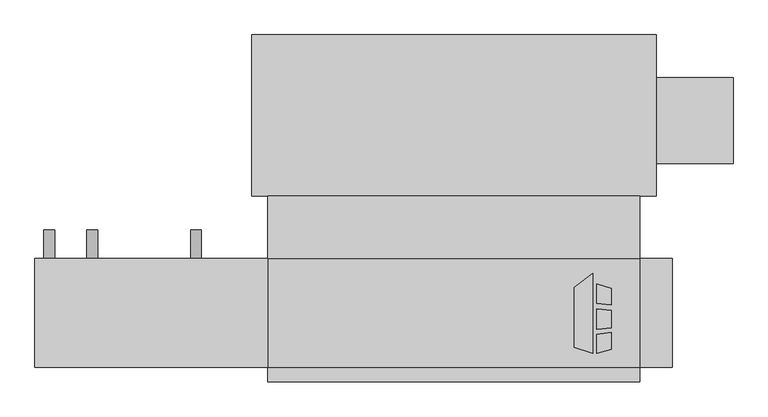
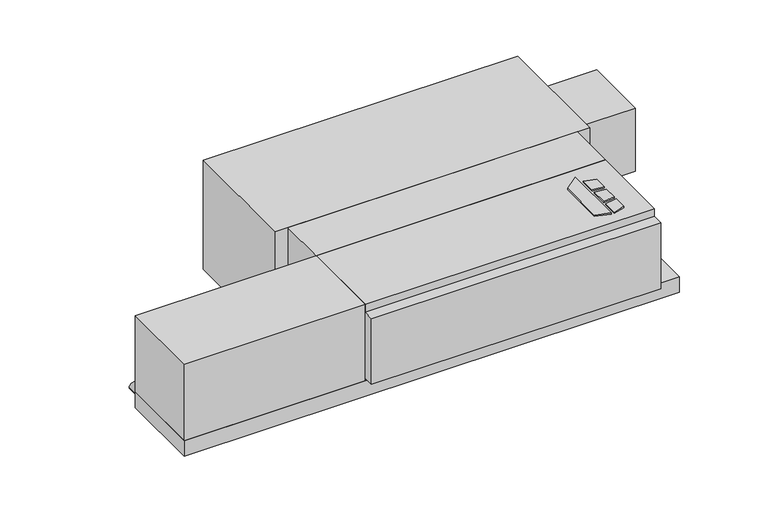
"""IFC4 building model written with IfcOpenShell, lengths in millimetres: proxy geometry, Concealed_Horizontal_Fan_Coil_Unit_With_Plenum_-_CPF_-_IEC_-_2-Pipe_LH : Size 04 - 115v/60Hz/1Ph - 4/1 Coil."""

from ifc_helpers import new_model, si_unit, point, frame, frame_2d, origin, origin_with_axes, place, context, project, spatial, polyline, circle_curve, trimmed, segment, composite_curve, outline, extrude, source, transform, mapped, element, save


def mechanical_equipment_48855735(model_context):
    return source(origin(), model_context, "Body", "SweptSolid", [
        extrude(outline(polyline([(366.4019761, -193.0453476), (398.9602728, -167.6080184), (398.9602728, -309.5625), (366.4019761, -299.3429201), (366.4019761, -193.0453476)])), origin_with_axes(), (0.0, 0.0, 1.0), 3.175),
        extrude(outline(polyline([(405.7186058, -220.917352), (405.7186058, -186.4374379), (431.8, -194.6240115), (431.8, -224.1197446), (405.7186058, -220.917352)])), origin_with_axes(), (0.0, 0.0, 1.0), 3.175),
        extrude(outline(polyline([(431.8, -302.5740115), (405.7186058, -309.5625), (405.7186058, -276.3411996), (431.8, -272.7993564), (431.8, -302.5740115)])), origin_with_axes(), (0.0, 0.0, 1.0), 3.175),
        extrude(outline(polyline([(431.8, -233.2013277), (431.8, -264.451483), (405.7186058, -267.192748), (405.7186058, -231.3350378), (431.8, -233.2013277)])), origin_with_axes(), (0.0, 0.0, 1.0), 3.175),
        extrude(outline(polyline([(-177.8, -30.1625), (482.6, -30.1625), (482.6, -141.2875), (-177.8, -141.2875), (-177.8, -30.1625)])), frame((0.0, 0.0, -184.15), z_axis=(0.0, 0.0, 1.0), x_axis=(1.0, 0.0, 0.0)), (0.0, 0.0, 1.0), 184.15),
        extrude(outline(polyline([(-590.55, -334.9625), (-590.55, -141.2875), (-177.8, -141.2875), (-177.8, -334.9625), (-590.55, -334.9625)])), frame((0.0, 0.0, -184.15), z_axis=(0.0, 0.0, 1.0), x_axis=(1.0, 0.0, 0.0)), (0.0, 0.0, 1.0), 184.15),
        extrude(outline(polyline([(539.75, -141.2875), (539.75, -334.9625), (-590.55, -334.9625), (-590.55, -141.2875), (539.75, -141.2875)])), frame((0.0, 0.0, -222.25), z_axis=(0.0, 0.0, 1.0), x_axis=(1.0, 0.0, 0.0)), (0.0, 0.0, 1.0), 38.1),
        extrude(outline(composite_curve([segment(trimmed(circle_curve(frame_2d((-158.75, -488.95)), 9.525), [point((-158.75, -479.425))], [point((-158.75, -498.475))], False, "CARTESIAN"), True, "CONTINUOUS"), segment(trimmed(circle_curve(frame_2d((-158.75, -488.95)), 9.525), [point((-158.75, -498.475))], [point((-158.75, -479.425))], False, "CARTESIAN"), True, "CONTINUOUS")], self_intersect=False)), frame((0.0, -141.2875, 0.0), z_axis=(0.0, 1.0, 0.0), x_axis=(0.0, 0.0, 1.0)), (0.0, 0.0, 1.0), 50.8),
        extrude(outline(composite_curve([segment(trimmed(circle_curve(frame_2d((-158.75, -304.8)), 9.525), [point((-158.75, -295.275))], [point((-158.75, -314.325))], False, "CARTESIAN"), True, "CONTINUOUS"), segment(trimmed(circle_curve(frame_2d((-158.75, -304.8)), 9.525), [point((-158.75, -314.325))], [point((-158.75, -295.275))], False, "CARTESIAN"), True, "CONTINUOUS")], self_intersect=False)), frame((0.0, -141.2875, 0.0), z_axis=(0.0, 1.0, 0.0), x_axis=(0.0, 0.0, 1.0)), (0.0, 0.0, 1.0), 50.8),
        extrude(outline(composite_curve([segment(trimmed(circle_curve(frame_2d((-209.55, -565.15)), 9.525), [point((-209.55, -574.675))], [point((-209.55, -555.625))], False, "CARTESIAN"), True, "CONTINUOUS"), segment(trimmed(circle_curve(frame_2d((-209.55, -565.15)), 9.525), [point((-209.55, -555.625))], [point((-209.55, -574.675))], False, "CARTESIAN"), True, "CONTINUOUS")], self_intersect=False)), frame((0.0, -141.2875, 0.0), z_axis=(0.0, 1.0, 0.0), x_axis=(0.0, 0.0, 1.0)), (0.0, 0.0, 1.0), 50.8),
        extrude(outline(polyline([(482.6, -334.9625), (482.6, -360.3625), (-177.8, -360.3625), (-177.8, -334.9625), (482.6, -334.9625)])), frame((0.0, 0.0, -177.8), z_axis=(0.0, 0.0, 1.0), x_axis=(1.0, 0.0, 0.0)), (0.0, 0.0, 1.0), 158.75),
        extrude(outline(polyline([(482.6, -334.9625), (-177.8, -334.9625), (-177.8, -141.2875), (482.6, -141.2875), (482.6, -334.9625)])), frame((0.0, 0.0, -184.15), z_axis=(0.0, 0.0, 1.0), x_axis=(1.0, 0.0, 0.0)), (0.0, 0.0, 1.0), 184.15),
        extrude(outline(polyline([(511.175, 26.9875), (511.175, 179.3875), (647.7, 179.3875), (647.7, 26.9875), (511.175, 26.9875)])), frame((0.0, 0.0, -187.325), z_axis=(0.0, 0.0, 1.0), x_axis=(1.0, 0.0, 0.0)), (0.0, 0.0, 1.0), 152.4),
        extrude(outline(polyline([(-206.375, 255.5875), (511.175, 255.5875), (511.175, -30.1625), (-206.375, -30.1625), (-206.375, 255.5875)])), frame((0.0, 0.0, -263.525), z_axis=(0.0, 0.0, 1.0), x_axis=(1.0, 0.0, 0.0)), (0.0, 0.0, 1.0), 263.525),
    ])


if __name__ == "__main__":
    model = new_model("IFC4")
    model_context = context("Model", 3, world=origin())
    ifc_project = project(units=[si_unit("LENGTHUNIT", "METRE", prefix="MILLI")], contexts=[model_context])
    site = spatial("IfcSite", under=ifc_project)
    building = spatial("IfcBuilding", under=site)
    placement = place(None, origin())
    mechanical_equipment_shape = mechanical_equipment_48855735(model_context)
    element("IfcBuildingElementProxy", 1, Name="Concealed_Horizontal_Fan_Coil_Unit_With_Plenum_-_CPF_-_IEC_-_2-Pipe_LH : Size 04 - 115v/60Hz/1Ph - 4/1 Coil", ObjectType="Concealed_Horizontal_Fan_Coil_Unit_With_Plenum_-_CPF_-_IEC_-_2-Pipe_LH : Size 04 - 115v/60Hz/1Ph - 4/1 Coil", at=placement, inside=building, context=model_context, shape_type="MappedRepresentation", body=[
        mapped(mechanical_equipment_shape, transform((0.0, 0.0, 0.0), x_axis=(1.0, 0.0, 0.0), y_axis=(0.0, 1.0, 0.0), z_axis=(0.0, 0.0, 1.0))),
    ])
    save(model, "model.ifc")
